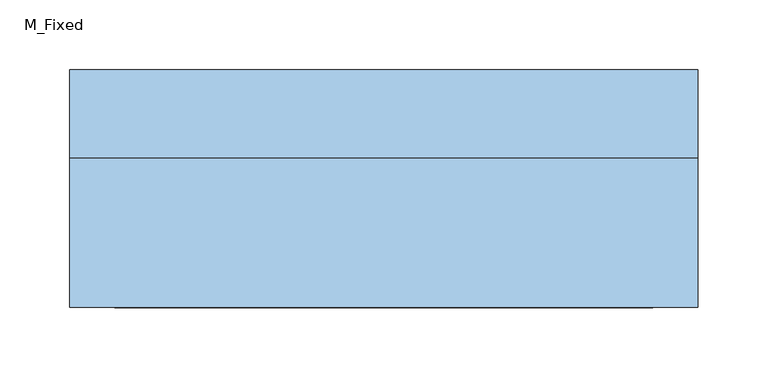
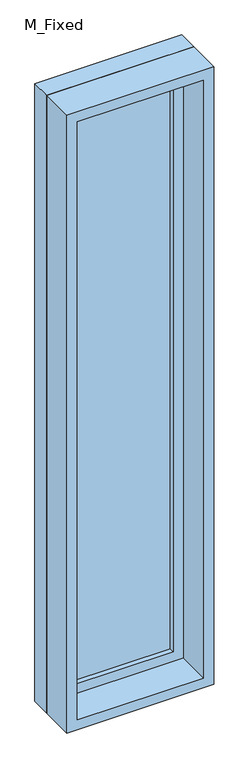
"""IFC4 building model written with IfcOpenShell, lengths in millimetres: window geometry, M_Fixed : 0.60*2.00."""

from ifc_helpers import new_model, si_unit, frame, origin, place, context, project, spatial, polyline, outline, extrude, source, transform, mapped, element, save


def m_fixed_e2bd5fef(model_context):
    return source(origin(), model_context, "Body", "SweptSolid", [
        extrude(outline(polyline([(-162.0, 63.0), (162.0, 63.0), (162.0, 51.0), (-162.0, 51.0), (-162.0, 63.0)])), frame((0.0, 0.0, 368.0), z_axis=(0.0, 0.0, 1.0), x_axis=(1.0, 0.0, 0.0)), (0.0, 0.0, 1.0), 1874.0),
        extrude(outline(polyline([(2286.0, -206.0), (324.0, -206.0), (324.0, 206.0), (2286.0, 206.0), (2286.0, -206.0)]), holes=[polyline([(2242.0, -162.0), (2242.0, 162.0), (368.0, 162.0), (368.0, -162.0), (2242.0, -162.0)])]), frame((0.0, 35.0, 0.0), z_axis=(0.0, 1.0, 0.0), x_axis=(0.0, 0.0, 1.0)), (0.0, 0.0, 1.0), 44.0),
        extrude(outline(polyline([(2305.0, -225.0), (305.0, -225.0), (305.0, 225.0), (2305.0, 225.0), (2305.0, -225.0)]), holes=[polyline([(2286.0, -206.0), (2286.0, 206.0), (324.0, 206.0), (324.0, -206.0), (2286.0, -206.0)])]), frame((0.0, 35.0, 0.0), z_axis=(0.0, 1.0, 0.0), x_axis=(0.0, 0.0, 1.0)), (0.0, 0.0, 1.0), 63.0),
        extrude(outline(polyline([(2305.0, -225.0), (305.0, -225.0), (305.0, 225.0), (2305.0, 225.0), (2305.0, -225.0)]), holes=[polyline([(2273.0, -193.0), (2273.0, 193.0), (337.0, 193.0), (337.0, -193.0), (2273.0, -193.0)])]), frame((0.0, -72.0, 0.0), z_axis=(0.0, 1.0, 0.0), x_axis=(0.0, 0.0, 1.0)), (0.0, 0.0, 1.0), 107.0),
    ])


if __name__ == "__main__":
    model = new_model("IFC4")
    model_context = context("Model", 3, world=origin())
    ifc_project = project(units=[si_unit("LENGTHUNIT", "METRE", prefix="MILLI")], contexts=[model_context])
    site = spatial("IfcSite", under=ifc_project)
    building = spatial("IfcBuilding", under=site)
    placement = place(None, origin())
    m_fixed_shape = m_fixed_e2bd5fef(model_context)
    element("IfcWindow", 1, ObjectType="M_Fixed : 0.60*2.00", at=placement, inside=building, context=model_context, shape_type="MappedRepresentation", body=[
        mapped(m_fixed_shape, transform((0.0, 0.0, 0.0), x_axis=(1.0, 0.0, 0.0), y_axis=(0.0, 1.0, 0.0), z_axis=(0.0, 0.0, 1.0))),
    ])
    save(model, "model.ifc")
